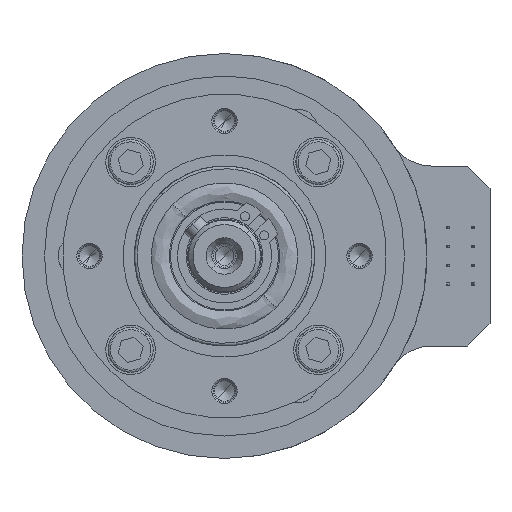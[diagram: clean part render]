
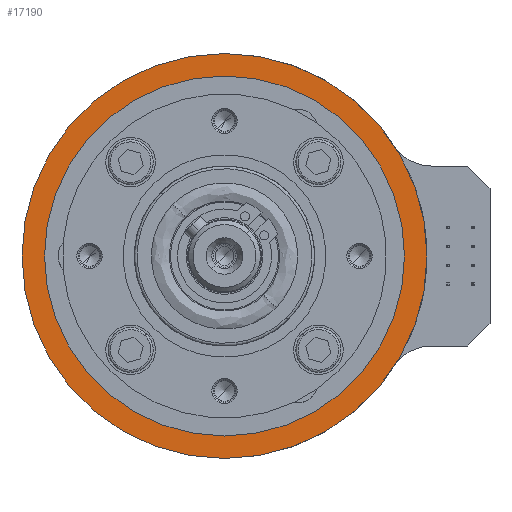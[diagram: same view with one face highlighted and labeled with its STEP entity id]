
A CAD part, left-side view. The second image highlights one B-rep face of the part: STEP entity #17190.
In plain terms, the highlighted planar face has unit normal (-1, 0, 0).
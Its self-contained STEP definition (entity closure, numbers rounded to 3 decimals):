
#619 = CARTESIAN_POINT ( 'NONE',  ( 0., 0., 0. ) ) ;
#806 = EDGE_CURVE ( 'NONE', #21833, #2197, #24942, .T. ) ;
#892 = AXIS2_PLACEMENT_3D ( 'NONE', #4882, #9886, #29636 ) ;
#1226 = CARTESIAN_POINT ( 'NONE',  ( 0., 32.5, 0. ) ) ;
#1270 = AXIS2_PLACEMENT_3D ( 'NONE', #31949, #19422, #31739 ) ;
#1863 = EDGE_CURVE ( 'NONE', #8356, #24927, #9748, .T. ) ;
#1903 = CIRCLE ( 'NONE', #25858, 45. ) ;
#2197 = VERTEX_POINT ( 'NONE', #21909 ) ;
#2414 = CARTESIAN_POINT ( 'NONE',  ( 0., -16.25, 28.146 ) ) ;
#2466 = FACE_BOUND ( 'NONE', #4470, .T. ) ;
#2943 = CARTESIAN_POINT ( 'NONE',  ( 0., 0., 0. ) ) ;
#3273 = CARTESIAN_POINT ( 'NONE',  ( 0., -16.25, -28.146 ) ) ;
#3309 = EDGE_CURVE ( 'NONE', #2197, #21833, #17361, .T. ) ;
#3649 = FACE_BOUND ( 'NONE', #30000, .T. ) ;
#4272 = AXIS2_PLACEMENT_3D ( 'NONE', #2414, #19380, #17149 ) ;
#4470 = EDGE_LOOP ( 'NONE', ( #7196, #25258 ) ) ;
#4542 = CARTESIAN_POINT ( 'NONE',  ( 0., 0., -17.5 ) ) ;
#4714 = ORIENTED_EDGE ( 'NONE', *, *, #19748, .F. ) ;
#4882 = CARTESIAN_POINT ( 'NONE',  ( 0., -16.25, 28.146 ) ) ;
#5476 = DIRECTION ( 'NONE',  ( 0., 0., 1. ) ) ;
#5678 = AXIS2_PLACEMENT_3D ( 'NONE', #28997, #24492, #22080 ) ;
#5915 = DIRECTION ( 'NONE',  ( 0., 0., -1. ) ) ;
#5916 = AXIS2_PLACEMENT_3D ( 'NONE', #3273, #27795, #5476 ) ;
#6079 = CIRCLE ( 'NONE', #4272, 2.1 ) ;
#6536 = DIRECTION ( 'NONE',  ( -1., 0., 0. ) ) ;
#7196 = ORIENTED_EDGE ( 'NONE', *, *, #10421, .F. ) ;
#7711 = CARTESIAN_POINT ( 'NONE',  ( 0., -16.25, 26.046 ) ) ;
#7835 = CARTESIAN_POINT ( 'NONE',  ( 0., 0., 45. ) ) ;
#7893 = VERTEX_POINT ( 'NONE', #11042 ) ;
#8032 = DIRECTION ( 'NONE',  ( 1., 0., 0. ) ) ;
#8356 = VERTEX_POINT ( 'NONE', #28549 ) ;
#8783 = CARTESIAN_POINT ( 'NONE',  ( 0., 32.5, 2.1 ) ) ;
#8808 = CIRCLE ( 'NONE', #27581, 45. ) ;
#8870 = AXIS2_PLACEMENT_3D ( 'NONE', #28017, #10560, #5915 ) ;
#9449 = EDGE_LOOP ( 'NONE', ( #4714, #18011 ) ) ;
#9748 = CIRCLE ( 'NONE', #32072, 17.5 ) ;
#9886 = DIRECTION ( 'NONE',  ( -1., 0., 0. ) ) ;
#10421 = EDGE_CURVE ( 'NONE', #25871, #7893, #18736, .T. ) ;
#10462 = PLANE ( 'NONE',  #8870 ) ;
#10560 = DIRECTION ( 'NONE',  ( 1., 0., 0. ) ) ;
#11042 = CARTESIAN_POINT ( 'NONE',  ( 0., -16.25, -30.246 ) ) ;
#12327 = CARTESIAN_POINT ( 'NONE',  ( 0., -16.25, 30.246 ) ) ;
#12361 = ORIENTED_EDGE ( 'NONE', *, *, #30272, .F. ) ;
#12623 = CARTESIAN_POINT ( 'NONE',  ( 0., 0., -45. ) ) ;
#13050 = DIRECTION ( 'NONE',  ( 0., 0., -1. ) ) ;
#13577 = ORIENTED_EDGE ( 'NONE', *, *, #3309, .F. ) ;
#15226 = CARTESIAN_POINT ( 'NONE',  ( 0., 0., 0. ) ) ;
#15344 = DIRECTION ( 'NONE',  ( -1., 0., 0. ) ) ;
#15452 = DIRECTION ( 'NONE',  ( 0., 0., -1. ) ) ;
#15826 = EDGE_CURVE ( 'NONE', #20894, #18430, #6079, .T. ) ;
#17023 = CIRCLE ( 'NONE', #1270, 2.1 ) ;
#17149 = DIRECTION ( 'NONE',  ( 0., 0., 1. ) ) ;
#17190 = ADVANCED_FACE ( 'NONE', ( #3649, #2466, #27599, #21039, #17961 ), #10462, .F. ) ;
#17361 = CIRCLE ( 'NONE', #28160, 2.1 ) ;
#17961 = FACE_OUTER_BOUND ( 'NONE', #9449, .T. ) ;
#18011 = ORIENTED_EDGE ( 'NONE', *, *, #30726, .F. ) ;
#18430 = VERTEX_POINT ( 'NONE', #7711 ) ;
#18736 = CIRCLE ( 'NONE', #5916, 2.1 ) ;
#19380 = DIRECTION ( 'NONE',  ( -1., 0., 0. ) ) ;
#19422 = DIRECTION ( 'NONE',  ( -1., 0., 0. ) ) ;
#19681 = VERTEX_POINT ( 'NONE', #7835 ) ;
#19748 = EDGE_CURVE ( 'NONE', #27998, #19681, #1903, .T. ) ;
#20464 = EDGE_LOOP ( 'NONE', ( #24243, #22071 ) ) ;
#20894 = VERTEX_POINT ( 'NONE', #12327 ) ;
#20913 = ORIENTED_EDGE ( 'NONE', *, *, #1863, .F. ) ;
#21000 = DIRECTION ( 'NONE',  ( 0., 0., -1. ) ) ;
#21039 = FACE_BOUND ( 'NONE', #25586, .T. ) ;
#21833 = VERTEX_POINT ( 'NONE', #8783 ) ;
#21909 = CARTESIAN_POINT ( 'NONE',  ( 0., 32.5, -2.1 ) ) ;
#22009 = AXIS2_PLACEMENT_3D ( 'NONE', #619, #15344, #15452 ) ;
#22071 = ORIENTED_EDGE ( 'NONE', *, *, #30643, .F. ) ;
#22080 = DIRECTION ( 'NONE',  ( 0., 0., 1. ) ) ;
#22385 = CIRCLE ( 'NONE', #22009, 17.5 ) ;
#22418 = EDGE_CURVE ( 'NONE', #7893, #25871, #17023, .T. ) ;
#23832 = DIRECTION ( 'NONE',  ( 0., 0., 1. ) ) ;
#24243 = ORIENTED_EDGE ( 'NONE', *, *, #15826, .F. ) ;
#24492 = DIRECTION ( 'NONE',  ( -1., 0., 0. ) ) ;
#24927 = VERTEX_POINT ( 'NONE', #4542 ) ;
#24942 = CIRCLE ( 'NONE', #5678, 2.1 ) ;
#25130 = CARTESIAN_POINT ( 'NONE',  ( 0., -16.25, -26.046 ) ) ;
#25258 = ORIENTED_EDGE ( 'NONE', *, *, #22418, .F. ) ;
#25259 = DIRECTION ( 'NONE',  ( -1., 0., 0. ) ) ;
#25586 = EDGE_LOOP ( 'NONE', ( #12361, #20913 ) ) ;
#25858 = AXIS2_PLACEMENT_3D ( 'NONE', #15226, #8032, #13050 ) ;
#25871 = VERTEX_POINT ( 'NONE', #25130 ) ;
#27442 = DIRECTION ( 'NONE',  ( 0., 0., -1. ) ) ;
#27581 = AXIS2_PLACEMENT_3D ( 'NONE', #27845, #30049, #27442 ) ;
#27599 = FACE_BOUND ( 'NONE', #20464, .T. ) ;
#27795 = DIRECTION ( 'NONE',  ( -1., 0., 0. ) ) ;
#27845 = CARTESIAN_POINT ( 'NONE',  ( 0., 0., 0. ) ) ;
#27998 = VERTEX_POINT ( 'NONE', #12623 ) ;
#28017 = CARTESIAN_POINT ( 'NONE',  ( 0., 0., 0. ) ) ;
#28160 = AXIS2_PLACEMENT_3D ( 'NONE', #1226, #6536, #23832 ) ;
#28549 = CARTESIAN_POINT ( 'NONE',  ( 0., 0., 17.5 ) ) ;
#28997 = CARTESIAN_POINT ( 'NONE',  ( 0., 32.5, 0. ) ) ;
#29636 = DIRECTION ( 'NONE',  ( 0., 0., 1. ) ) ;
#29681 = CIRCLE ( 'NONE', #892, 2.1 ) ;
#29957 = ORIENTED_EDGE ( 'NONE', *, *, #806, .F. ) ;
#30000 = EDGE_LOOP ( 'NONE', ( #29957, #13577 ) ) ;
#30049 = DIRECTION ( 'NONE',  ( 1., 0., 0. ) ) ;
#30272 = EDGE_CURVE ( 'NONE', #24927, #8356, #22385, .T. ) ;
#30643 = EDGE_CURVE ( 'NONE', #18430, #20894, #29681, .T. ) ;
#30726 = EDGE_CURVE ( 'NONE', #19681, #27998, #8808, .T. ) ;
#31739 = DIRECTION ( 'NONE',  ( 0., 0., 1. ) ) ;
#31949 = CARTESIAN_POINT ( 'NONE',  ( 0., -16.25, -28.146 ) ) ;
#32072 = AXIS2_PLACEMENT_3D ( 'NONE', #2943, #25259, #21000 ) ;
